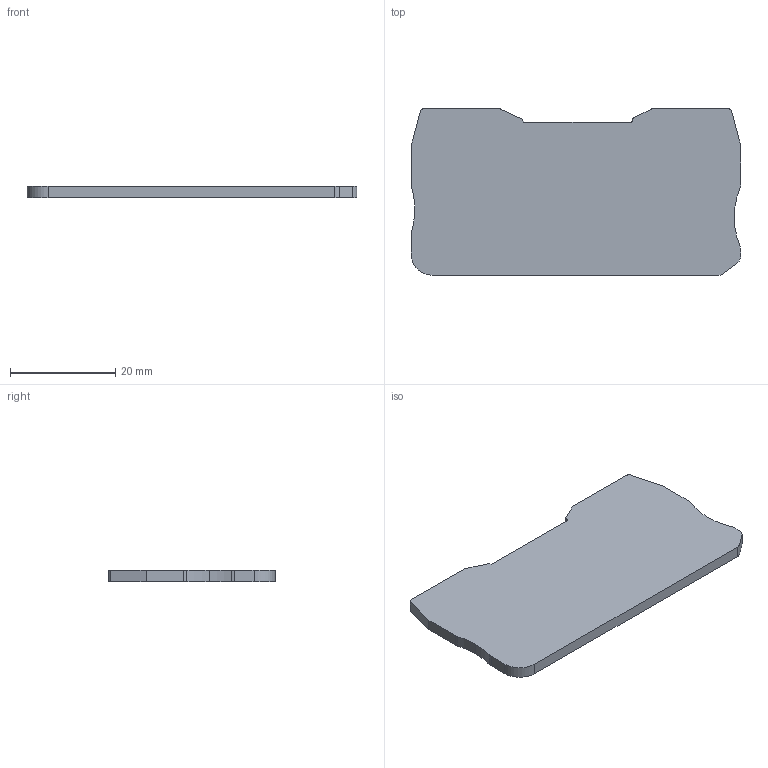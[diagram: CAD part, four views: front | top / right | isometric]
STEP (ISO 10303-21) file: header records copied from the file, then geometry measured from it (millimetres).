
FILE_DESCRIPTION(('OneSpaceDesigner STEP Export'),'2;1');
FILE_NAME('3206568_d_qtc25-select.stp','2004-10-15T14:05:22',(''),(''),'OneSpace Designer STEP processor (Jan. 2003) for AP203(Solid Model)','OneSpace Designer 12.01C 26-Mar-2004 (C) CoCreate Software GmbH','');
FILE_SCHEMA(('CONFIG_CONTROL_DESIGN'));
Length unit declared in the file: millimetre
Products named in the file (2): 3206568_d_qtc25-select
Assembly tree (1 placements, depth 2):
  3206568_d_qtc25-select
    3206568_d_qtc25-select
Bounding box: 62.6 x 31.55 x 2.2 mm (x, y, z)
Volume: 4133.4 mm3; surface area: 4160.7 mm2
Topology: 1 solids, 1 shells, 37 faces, 105 edges, 70 vertices
Faces by surface type: cylinder 20, plane 17
Entity records: 1707 total; most frequent: DIRECTION 211, ORIENTED_EDGE 210, CARTESIAN_POINT 208, EDGE_CURVE 105, AXIS2_PLACEMENT_3D 73, VERTEX_POINT 70, VECTOR 65, LINE 65
